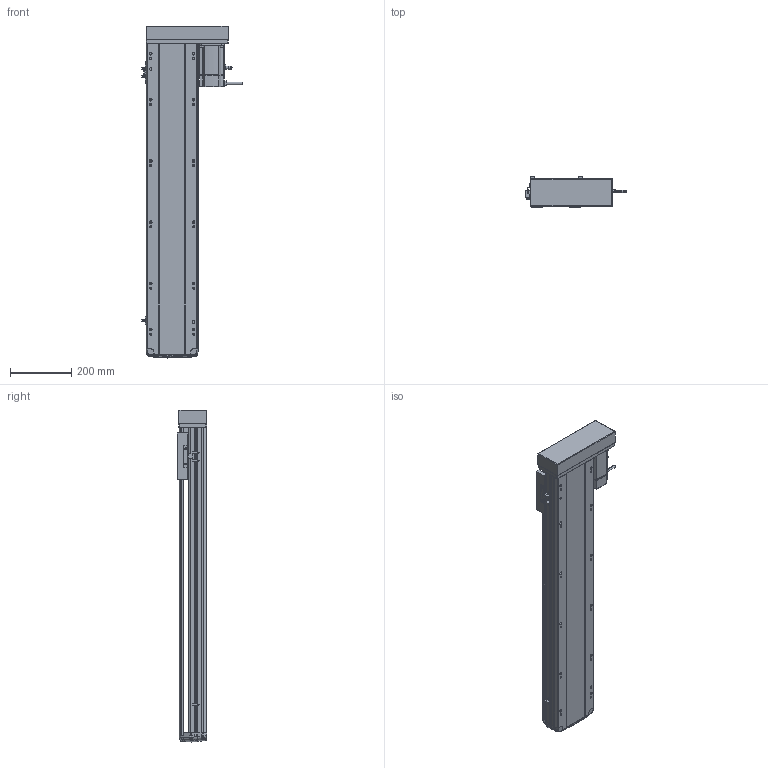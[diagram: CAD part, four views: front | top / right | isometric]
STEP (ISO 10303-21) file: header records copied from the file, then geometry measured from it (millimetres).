
FILE_DESCRIPTION (( 'STEP AP214' ), '1' );
FILE_NAME ('RTH17-XX-800-L-M75-C4.STEP', '2025-10-24T10:34:18', ( '' ), ( '' ), 'SwSTEP 2.0', 'SolidWorks 2018', '' );
FILE_SCHEMA (( 'AUTOMOTIVE_DESIGN' ));
Length unit declared in the file: millimetre
Products named in the file (10): N_RTH17-E-004丝杆螺母连接座^RTH17-XX-XX-L-M75-C4（方程式）; N_RTH-L-012 感应片(外置)^RTH17-XX-XX-L-M75-C4（方程式）; N_OMRON EE-SX672 換覜ん^RTH17-XX-XX-L-M75-C4ㄗ源最宒ㄘ; RTH17-XX-800-L-M75-C4; N_RTH17-M-007上盖^RTH17-XX-XX-L-M75-C4（方程式）; N_RTH17-L-018盖子^RTH17-XX-XX-L-M75-C4（方程式）; N_RTH17-GY-001P^RTH17-XX-XX-L-M75-C4（方程式）; N_M75^RTH17-XX-XX-L-M75-C4（方程式）; N_RTH17-M-011底座^RTH17-XX-XX-L-M75-C4（方程式）; N_RTH17-L-008-P75电机安装板左转折^RTH17-XX-XX-L-M75-C4（方程式）
Assembly tree (11 placements, depth 2):
  RTH17-XX-800-L-M75-C4
    N_RTH17-M-011底座^RTH17-XX-XX-L-M75-C4（方程式）
    N_RTH17-M-007上盖^RTH17-XX-XX-L-M75-C4（方程式）
    N_M75^RTH17-XX-XX-L-M75-C4（方程式）
    N_OMRON EE-SX672 換覜ん^RTH17-XX-XX-L-M75-C4ㄗ源最宒ㄘ  x3
    N_RTH-L-012 感应片(外置)^RTH17-XX-XX-L-M75-C4（方程式）
    N_RTH17-L-008-P75电机安装板左转折^RTH17-XX-XX-L-M75-C4（方程式）
    N_RTH17-L-018盖子^RTH17-XX-XX-L-M75-C4（方程式）
    N_RTH17-E-004丝杆螺母连接座^RTH17-XX-XX-L-M75-C4（方程式）
    N_RTH17-GY-001P^RTH17-XX-XX-L-M75-C4（方程式）
Bounding box: 326.7 x 97 x 1082.99 mm (x, y, z)
Volume: 9873385.7 mm3; surface area: 1237397.5 mm2
Topology: 13 solids, 15 shells, 1757 faces, 4835 edges, 3130 vertices
Faces by surface type: plane 833, cylinder 510, bspline 377, cone 28, torus 9
Entity records: 51269 total; most frequent: CARTESIAN_POINT 20495, ORIENTED_EDGE 6694, DIRECTION 5563, EDGE_CURVE 3351, VERTEX_POINT 2166, AXIS2_PLACEMENT_3D 1873, VECTOR 1817, LINE 1817
